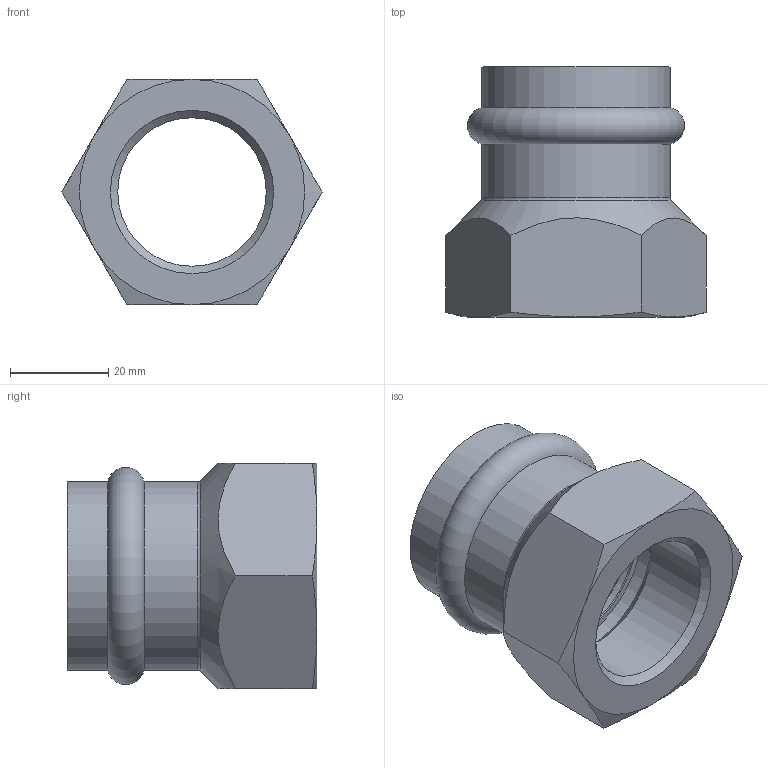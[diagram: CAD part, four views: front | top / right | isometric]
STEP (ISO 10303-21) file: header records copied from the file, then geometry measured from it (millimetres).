
FILE_DESCRIPTION(/* description */ (''),/* implementation_level */ '2;1');
FILE_NAME(/* name */ 'C:\Users\Vault\Desktop\Articoli_INOXPRES UNIKO\190_INOXPRES_UNIKO\190100035U_Inoxpres_Uniko.stp',/* time_stamp */ '2022-10-06T11:31:28+02:00',/* author */ ('Vault'),/* organization */ ('Raccorderie metalliche s.p.a. '),/* preprocessor_version */ 'ST-DEVELOPER v18.1',/* originating_system */ 'Autodesk Inventor 2020',/* authorisation */ 'Raccorderie metalliche s.p.a. ');
FILE_SCHEMA (('AUTOMOTIVE_DESIGN { 1 0 10303 214 3 1 1 }'));
Length unit declared in the file: millimetre
Products named in the file (1): 190100035V_Inoxpres_Uniko
Bounding box: 53.12 x 51 x 46 mm (x, y, z)
Volume: 30000.4 mm3; surface area: 14709.3 mm2
Topology: 1 solids, 1 shells, 34 faces, 88 edges, 58 vertices
Faces by surface type: cone 13, plane 10, cylinder 7, torus 4
Full cylindrical faces by diameter (mm): 30.3 x1, 32 x1, 35 x1, 35.4 x2, 38.4 x2
Entity records: 1091 total; most frequent: CARTESIAN_POINT 219, DIRECTION 188, ORIENTED_EDGE 176, EDGE_CURVE 88, AXIS2_PLACEMENT_3D 84, VERTEX_POINT 58, CIRCLE 49, EDGE_LOOP 38
